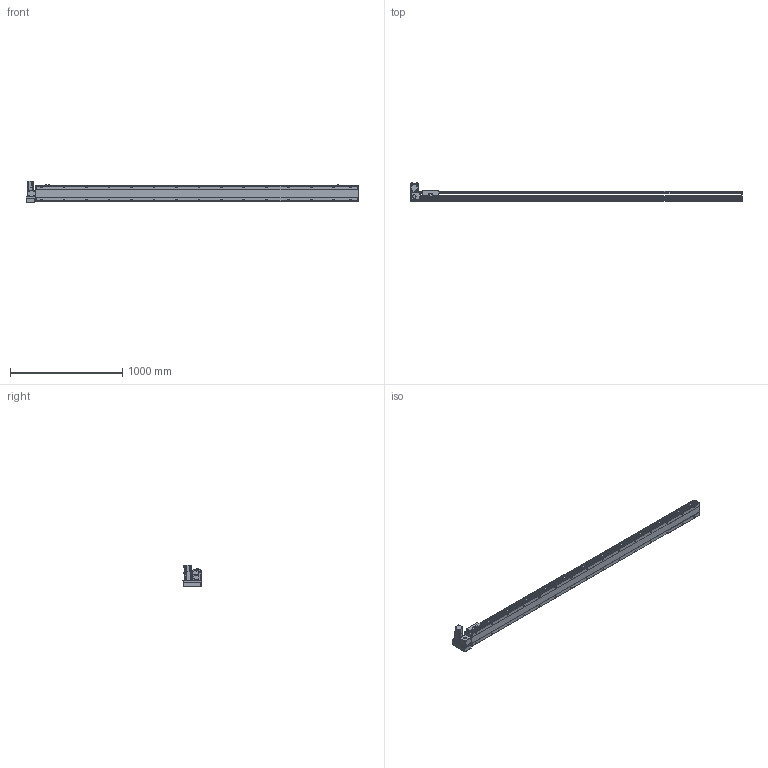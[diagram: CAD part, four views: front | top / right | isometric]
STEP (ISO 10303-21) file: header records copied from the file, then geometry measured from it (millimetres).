
FILE_DESCRIPTION( ( 'STEP AP214' ), '1' );
FILE_NAME( 'x:/temp/worker_6/temp/exporttempdir_5396_156_AZa31/format_0/PBS140S-P40-S2600-LU-T40-C1-N(0).stp', '2022-06-09T00:36:42', ( 'License CC BY-ND 4.0' ), ( 'CADENAS' ), ' ', 'PARTsolutions', ' ' );
FILE_SCHEMA( ( 'AUTOMOTIVE_DESIGN { 1 0 10303 214 1 1 1 1 }' ) );
Length unit declared in the file: millimetre
Products named in the file (7): PBS140S-P40-S2600-LU-T40-C1-N(0); _PBS140S-S2600()_body; _PBS140ST-LU_motors; _T40-p1; _PBS140S_sliser; _PBS140S_plant; _PBS140S_sensor
Assembly tree (8 placements, depth 2):
  PBS140S-P40-S2600-LU-T40-C1-N(0)
    _PBS140S-S2600()_body
    _PBS140ST-LU_motors
    _T40-p1
    _PBS140S_sliser
    _PBS140S_plant
    _PBS140S_sensor  x3
Bounding box: 2954 x 162.5 x 189.7 mm (x, y, z)
Volume: 14325763.1 mm3; surface area: 2411213.5 mm2
Topology: 8 solids, 8 shells, 1211 faces, 3191 edges, 2087 vertices
Faces by surface type: plane 744, cylinder 401, cone 56, sphere 8, torus 2
Full cylindrical faces by diameter (mm): 3.242 x4, 4 x2, 4.134 x4, 4.4 x8, 4.5 x2, 4.8 x4, 4.917 x38, 5.5 x7, 6 x2, 7 x32, 7.5 x8, 8 x12, 8.5 x4, 10.5 x30, 14 x1, 30 x2, 50 x2
Entity records: 44830 total; most frequent: CARTESIAN_POINT 7582, DIRECTION 5838, ORIENTED_EDGE 5482, EDGE_CURVE 2741, AXIS2_PLACEMENT_3D 2069, VERTEX_POINT 1921, LINE 1700, VECTOR 1700
